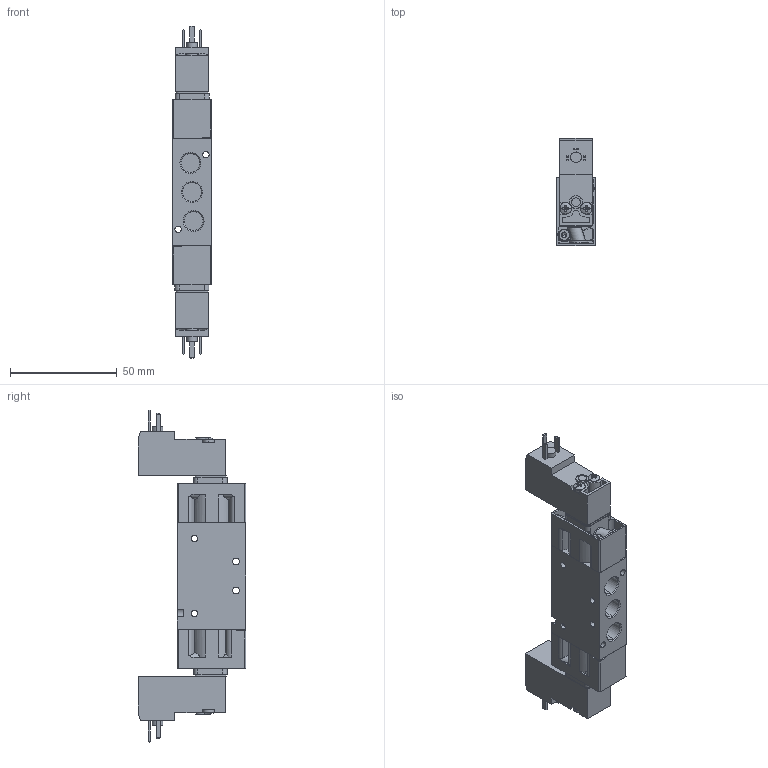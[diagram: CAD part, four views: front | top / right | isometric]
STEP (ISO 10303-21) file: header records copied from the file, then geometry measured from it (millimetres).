
FILE_DESCRIPTION (( 'STEP AP214' ), '1' );
FILE_NAME ('05_053_4.STEP', '2016-02-19T11:07:12', ( '' ), ( '' ), 'SwSTEP 2.0', 'SolidWorks 2016', '' );
FILE_SCHEMA (( 'AUTOMOTIVE_DESIGN' ));
Length unit declared in the file: millimetre
Products named in the file (1): 05_053_4
Bounding box: 18 x 50.3 x 155.6 mm (x, y, z)
Volume: 65389 mm3; surface area: 29359.5 mm2
Topology: 10 solids, 10 shells, 1932 faces, 4909 edges, 2998 vertices
Faces by surface type: cylinder 668, cone 554, plane 461, bspline 201, torus 40, sphere 8
Entity records: 69263 total; most frequent: CARTESIAN_POINT 21367, DIRECTION 10285, ORIENTED_EDGE 9710, EDGE_CURVE 4855, AXIS2_PLACEMENT_3D 4104, VERTEX_POINT 2998, CIRCLE 2372, LINE 2077
